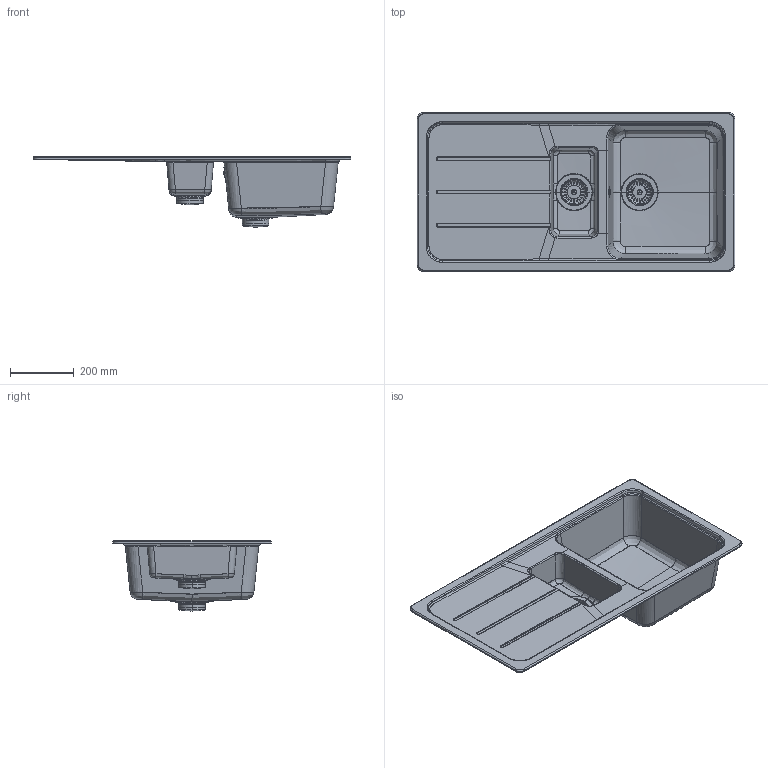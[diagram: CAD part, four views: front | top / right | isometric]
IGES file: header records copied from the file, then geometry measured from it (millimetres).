
Global section: file name: /Volumes/__KUNDEN/____01_SCHOCK/____projekte_schock/___RENDER/_SPU; native system: Rhinoceros ( Aug 27 2014 ); preprocessor: Trout Lake IGES 012 Aug 27 2014; date: 160112.152756; units: millimetre
Bounding box: 1000 x 500 x 221.43 mm (x, y, z)
Surface area: 885010.3 mm2 (no closed solid volume)
Topology: 0 solids, 0 shells, 524 faces, 7974 edges, 7958 vertices
Faces by surface type: bspline 524
